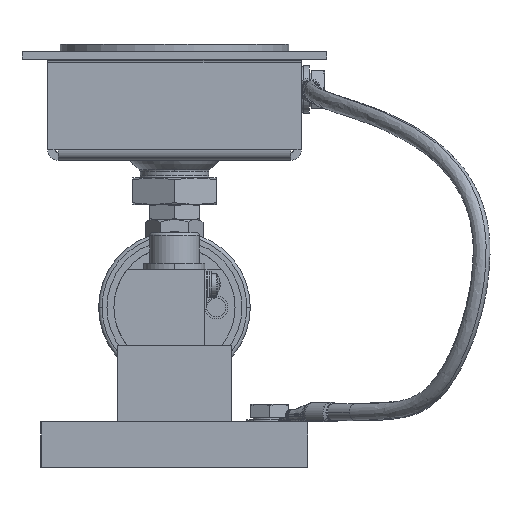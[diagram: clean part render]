
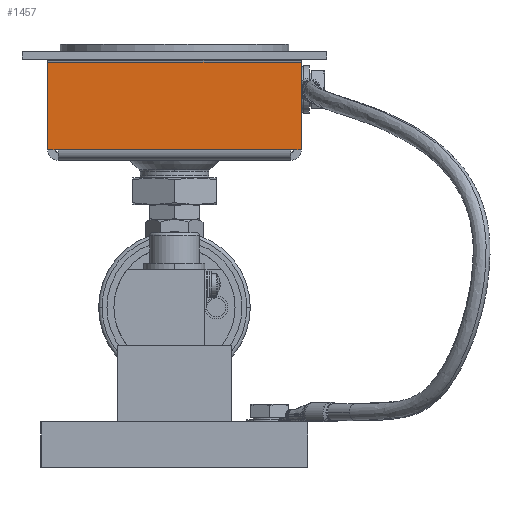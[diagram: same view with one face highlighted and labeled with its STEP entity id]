
A CAD part, front view. The second image highlights one B-rep face of the part: STEP entity #1457.
In plain terms, the highlighted planar face has unit normal (0, -1, 0) as drawn and (-1, 0, 0) by its records, which use the part's own axes.
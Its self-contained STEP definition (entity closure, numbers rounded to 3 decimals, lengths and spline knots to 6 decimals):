
#1457=ADVANCED_FACE('293:1227',(#2733),#2734,.T.);
#2733=FACE_OUTER_BOUND('',#13228,.T.);
#2734=PLANE('',#13229);
#13228=EDGE_LOOP('',(#16755,#16756,#16757,#16758,#16759,#16760));
#13229=AXIS2_PLACEMENT_3D('',#16761,#16762,#16763);
#16755=ORIENTED_EDGE('',*,*,#22317,.F.);
#16756=ORIENTED_EDGE('',*,*,#22315,.T.);
#16757=ORIENTED_EDGE('',*,*,#22314,.T.);
#16758=ORIENTED_EDGE('',*,*,#22308,.F.);
#16759=ORIENTED_EDGE('',*,*,#22303,.F.);
#16760=ORIENTED_EDGE('',*,*,#22300,.F.);
#16761=CARTESIAN_POINT('',(-0.03325,0.0,0.0));
#16762=DIRECTION('',(-1.0,0.0,0.0));
#16763=DIRECTION('',(0.0,-1.0,0.0));
#22300=EDGE_CURVE('325:225',#24905,#24916,#24917,.F.);
#22303=EDGE_CURVE('293:1250',#24916,#24921,#24922,.F.);
#22308=EDGE_CURVE('308:12768',#24921,#24928,#24929,.T.);
#22314=EDGE_CURVE('293:1240',#24931,#24928,#24938,.T.);
#22315=EDGE_CURVE('324:463',#24913,#24931,#24939,.T.);
#22317=EDGE_CURVE('325:228',#24913,#24905,#24941,.F.);
#24905=VERTEX_POINT('',#30270);
#24913=VERTEX_POINT('',#30281);
#24916=VERTEX_POINT('',#30285);
#24917=LINE('',#30286,#30287);
#24921=VERTEX_POINT('',#30293);
#24922=LINE('',#30294,#30295);
#24928=VERTEX_POINT('',#30303);
#24929=LINE('',#30304,#30305);
#24931=VERTEX_POINT('',#30307);
#24938=LINE('',#30317,#30318);
#24939=LINE('',#30319,#30320);
#24941=LINE('',#30323,#30324);
#30270=CARTESIAN_POINT('',(-0.03325,0.0305,0.00275));
#30281=CARTESIAN_POINT('',(-0.03325,-0.0305,0.00275));
#30285=CARTESIAN_POINT('',(-0.03325,0.03325,0.00275));
#30286=CARTESIAN_POINT('',(-0.03325,0.015938,0.00275));
#30287=VECTOR('',#34700,1.0);
#30293=CARTESIAN_POINT('',(-0.03325,0.03325,0.02575));
#30294=CARTESIAN_POINT('',(-0.03325,0.03325,0.0));
#30295=VECTOR('',#34703,1.0);
#30303=CARTESIAN_POINT('',(-0.03325,-0.03325,0.02575));
#30304=CARTESIAN_POINT('',(-0.03325,0.0,0.02575));
#30305=VECTOR('',#34712,1.0);
#30307=CARTESIAN_POINT('',(-0.03325,-0.03325,0.00275));
#30317=CARTESIAN_POINT('',(-0.03325,-0.03325,0.0));
#30318=VECTOR('',#34722,1.0);
#30319=CARTESIAN_POINT('',(-0.03325,-0.015938,0.00275));
#30320=VECTOR('',#34723,1.0);
#30323=CARTESIAN_POINT('',(-0.03325,0.0,0.00275));
#30324=VECTOR('',#34725,1.0);
#34700=DIRECTION('',(-0.0,-1.0,-0.0));
#34703=DIRECTION('',(-0.0,0.0,-1.0));
#34712=DIRECTION('',(-0.0,-1.0,-0.0));
#34722=DIRECTION('',(0.0,0.0,1.0));
#34723=DIRECTION('',(-0.0,-1.0,-0.0));
#34725=DIRECTION('',(0.0,-1.0,0.0));
